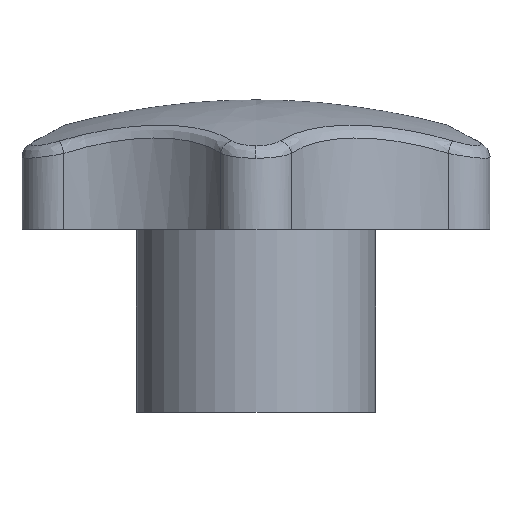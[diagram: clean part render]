
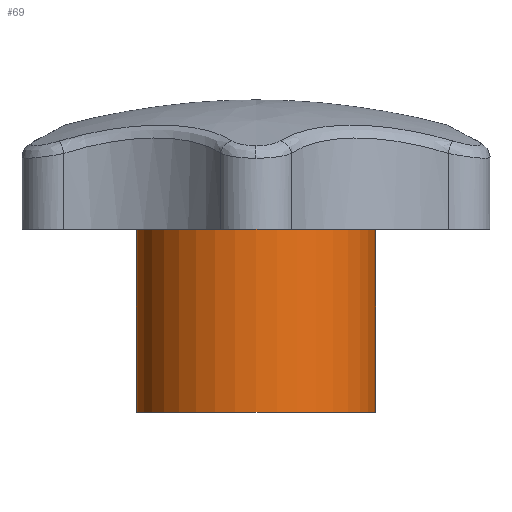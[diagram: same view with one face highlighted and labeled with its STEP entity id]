
A CAD part, left-side view. The second image highlights one B-rep face of the part: STEP entity #69.
In plain terms, the highlighted cylindrical face has radius 18 mm (diameter 36 mm), a full revolution.
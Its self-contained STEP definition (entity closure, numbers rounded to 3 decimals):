
#37=CARTESIAN_POINT('',(0.,0.,33.));
#38=DIRECTION('',(-1.,0.,0.));
#39=DIRECTION('',(0.,0.,-1.));
#40=AXIS2_PLACEMENT_3D('',#37,#39,#38);
#41=CYLINDRICAL_SURFACE('',#40,18.);
#42=CARTESIAN_POINT('',(-18.,0.,0.));
#43=VERTEX_POINT('',#42);
#44=CARTESIAN_POINT('',(0.,0.,0.));
#45=DIRECTION('',(-1.,0.,-0.));
#46=DIRECTION('',(0.,0.,1.));
#47=AXIS2_PLACEMENT_3D('',#44,#46,#45);
#48=CIRCLE('',#47,18.);
#49=EDGE_CURVE('',#43,#43,#48,.T.);
#50=ORIENTED_EDGE('E57',*,*,#49,.T.);
#51=CARTESIAN_POINT('',(-18.,0.,33.));
#52=VERTEX_POINT('',#51);
#53=CARTESIAN_POINT('',(-18.,0.,0.));
#54=DIRECTION('',(0.,0.,1.));
#55=VECTOR('',#54,33.);
#56=LINE('',#53,#55);
#57=EDGE_CURVE('',#43,#52,#56,.T.);
#58=ORIENTED_EDGE('E55',*,*,#57,.T.);
#59=CARTESIAN_POINT('',(0.,0.,33.));
#60=DIRECTION('',(-1.,0.,0.));
#61=DIRECTION('',(0.,0.,1.));
#62=AXIS2_PLACEMENT_3D('',#59,#61,#60);
#63=CIRCLE('',#62,18.);
#64=EDGE_CURVE('',#52,#52,#63,.T.);
#65=ORIENTED_EDGE('E129',*,*,#64,.F.);
#66=ORIENTED_EDGE('E129',*,*,#57,.F.);
#67=EDGE_LOOP('',(#50,#58,#65,#66));
#68=FACE_OUTER_BOUND('',#67,.T.);
#69=ADVANCED_FACE('F50',(#68),#41,.T.);
